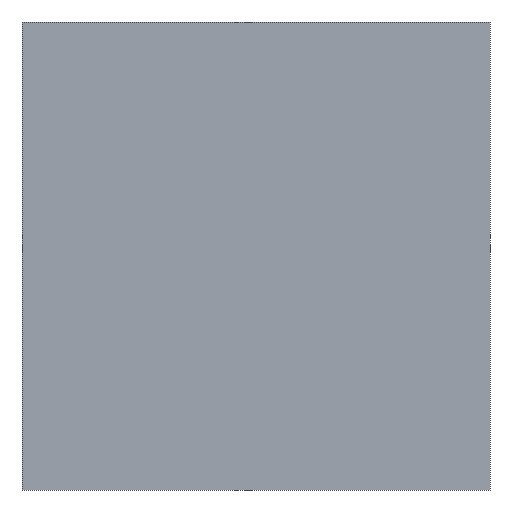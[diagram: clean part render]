
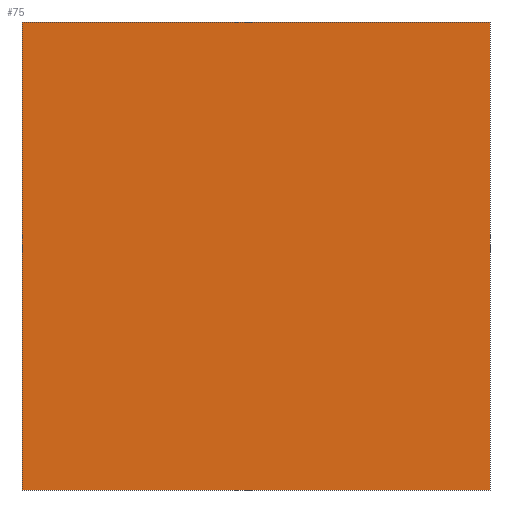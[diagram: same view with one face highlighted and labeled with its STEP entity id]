
A CAD part, front view. The second image highlights one B-rep face of the part: STEP entity #75.
In plain terms, the highlighted planar face has unit normal (0, -1, 0).
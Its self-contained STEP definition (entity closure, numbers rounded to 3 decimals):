
#60 = EDGE_CURVE ( 'NONE', #5422, #5423, #4228, .T. ) ;
#75 = ADVANCED_FACE ( 'NONE', ( #4564 ), #4565, .T. ) ;
#106 = VECTOR ( 'NONE', #4230, 1000. ) ;
#116 = AXIS2_PLACEMENT_3D ( 'NONE', #4561, #4567, #4568 ) ;
#140 = VECTOR ( 'NONE', #4713, 1000. ) ;
#143 = VECTOR ( 'NONE', #5020, 1000. ) ;
#145 = VECTOR ( 'NONE', #5069, 1000. ) ;
#1185 = EDGE_LOOP ( 'NONE', ( #5469, #5456, #5451, #5481 ) ) ;
#4228 = LINE ( 'NONE', #4229, #106 ) ;
#4229 = CARTESIAN_POINT ( 'NONE',  ( -11., -11., -121. ) ) ;
#4230 = DIRECTION ( 'NONE',  ( 1., 0., 0. ) ) ;
#4561 = CARTESIAN_POINT ( 'NONE',  ( -11., -11., -121. ) ) ;
#4564 = FACE_OUTER_BOUND ( 'NONE', #1185, .T. ) ;
#4565 = PLANE ( 'NONE',  #116 ) ;
#4567 = DIRECTION ( 'NONE',  ( 0., -1., 0. ) ) ;
#4568 = DIRECTION ( 'NONE',  ( 1., 0., 0. ) ) ;
#4710 = LINE ( 'NONE', #4712, #140 ) ;
#4712 = CARTESIAN_POINT ( 'NONE',  ( -11., -11., -121. ) ) ;
#4713 = DIRECTION ( 'NONE',  ( 0., 0., 1. ) ) ;
#5018 = LINE ( 'NONE', #5019, #143 ) ;
#5019 = CARTESIAN_POINT ( 'NONE',  ( 121., -11., -121. ) ) ;
#5020 = DIRECTION ( 'NONE',  ( 0., 0., 1. ) ) ;
#5066 = LINE ( 'NONE', #5068, #145 ) ;
#5067 = CARTESIAN_POINT ( 'NONE',  ( 121., -11., -121. ) ) ;
#5068 = CARTESIAN_POINT ( 'NONE',  ( -11., -11., 11. ) ) ;
#5069 = DIRECTION ( 'NONE',  ( 1., 0., 0. ) ) ;
#5075 = CARTESIAN_POINT ( 'NONE',  ( -11., -11., -121. ) ) ;
#5076 = CARTESIAN_POINT ( 'NONE',  ( 121., -11., 11. ) ) ;
#5080 = CARTESIAN_POINT ( 'NONE',  ( -11., -11., 11. ) ) ;
#5387 = EDGE_CURVE ( 'NONE', #5422, #5461, #4710, .T. ) ;
#5394 = EDGE_CURVE ( 'NONE', #5423, #5424, #5018, .T. ) ;
#5398 = EDGE_CURVE ( 'NONE', #5461, #5424, #5066, .T. ) ;
#5422 = VERTEX_POINT ( 'NONE', #5075 ) ;
#5423 = VERTEX_POINT ( 'NONE', #5067 ) ;
#5424 = VERTEX_POINT ( 'NONE', #5076 ) ;
#5451 = ORIENTED_EDGE ( 'NONE', *, *, #5387, .F. ) ;
#5456 = ORIENTED_EDGE ( 'NONE', *, *, #5398, .F. ) ;
#5461 = VERTEX_POINT ( 'NONE', #5080 ) ;
#5469 = ORIENTED_EDGE ( 'NONE', *, *, #5394, .T. ) ;
#5481 = ORIENTED_EDGE ( 'NONE', *, *, #60, .T. ) ;
